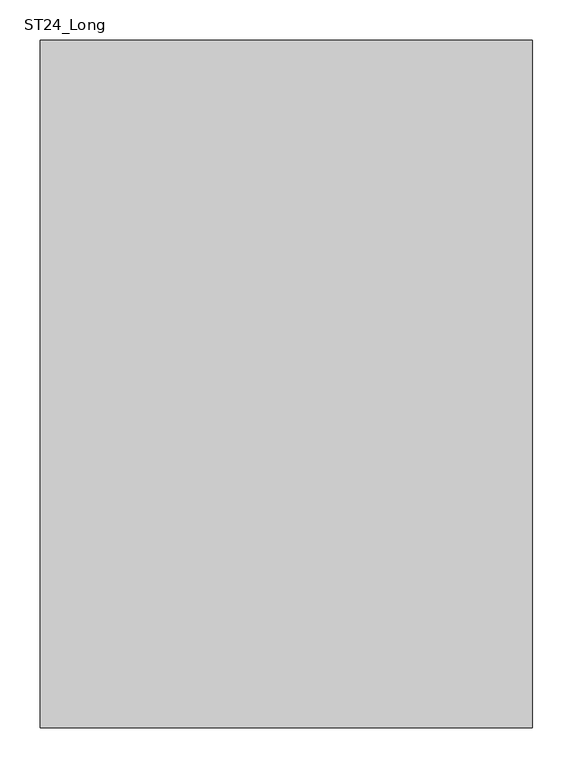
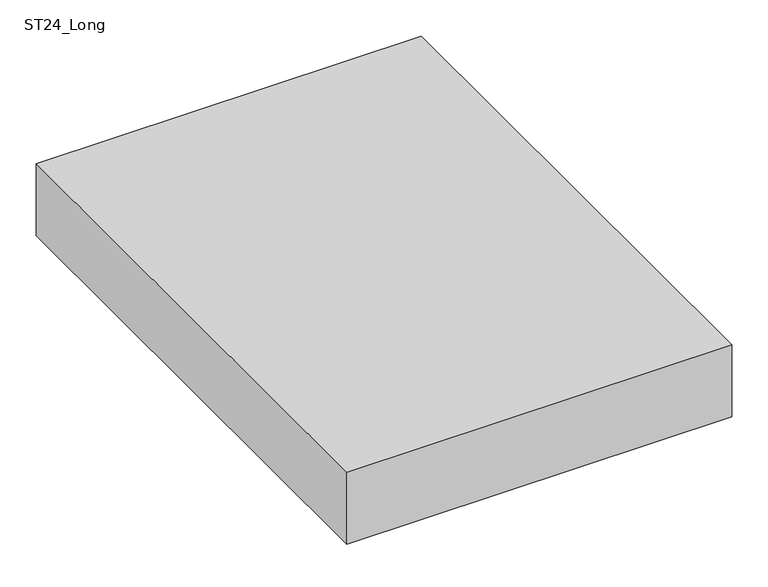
"""IFC4 building model written with IfcOpenShell, lengths in millimetres: furniture geometry, Memo_Candy_Table_Straight : ST24_Long."""

from ifc_helpers import new_model, si_unit, point, frame, frame_2d, origin, origin_with_axes, place, context, project, spatial, polyline, circle_curve, trimmed, segment, composite_curve, outline, extrude, source, transform, mapped, element, save


def st24_long_0afb67d4(model_context):
    return source(origin(), model_context, "Body", "SweptSolid", [
        extrude(outline(composite_curve([segment(trimmed(circle_curve(frame_2d((247.65, 323.85)), 14.2875), [point((233.3625, 323.85))], [point((261.9375, 323.85))], False, "CARTESIAN"), True, "CONTINUOUS"), segment(trimmed(circle_curve(frame_2d((247.65, 323.85)), 14.2875), [point((261.9375, 323.85))], [point((233.3625, 323.85))], False, "CARTESIAN"), True, "CONTINUOUS")], self_intersect=False)), origin_with_axes(), (0.0, 0.0, 1.0), 10.2362),
        extrude(outline(composite_curve([segment(trimmed(circle_curve(frame_2d((247.65, -425.45)), 14.2875), [point((233.3625, -425.45))], [point((261.9375, -425.45))], False, "CARTESIAN"), True, "CONTINUOUS"), segment(trimmed(circle_curve(frame_2d((247.65, -425.45)), 14.2875), [point((261.9375, -425.45))], [point((233.3625, -425.45))], False, "CARTESIAN"), True, "CONTINUOUS")], self_intersect=False)), origin_with_axes(), (0.0, 0.0, 1.0), 10.2362),
        extrude(outline(composite_curve([segment(trimmed(circle_curve(frame_2d((-247.65, 323.85)), 14.2875), [point((-261.9375, 323.85))], [point((-233.3625, 323.85))], False, "CARTESIAN"), True, "CONTINUOUS"), segment(trimmed(circle_curve(frame_2d((-247.65, 323.85)), 14.2875), [point((-233.3625, 323.85))], [point((-261.9375, 323.85))], False, "CARTESIAN"), True, "CONTINUOUS")], self_intersect=False)), origin_with_axes(), (0.0, 0.0, 1.0), 10.2362),
        extrude(outline(composite_curve([segment(trimmed(circle_curve(frame_2d((-247.65, -425.45)), 14.2875), [point((-261.9375, -425.45))], [point((-233.3625, -425.45))], False, "CARTESIAN"), True, "CONTINUOUS"), segment(trimmed(circle_curve(frame_2d((-247.65, -425.45)), 14.2875), [point((-233.3625, -425.45))], [point((-261.9375, -425.45))], False, "CARTESIAN"), True, "CONTINUOUS")], self_intersect=False)), origin_with_axes(), (0.0, 0.0, 1.0), 10.2362),
        extrude(outline(polyline([(304.8, -476.25), (-304.8, -476.25), (-304.8, 374.65), (304.8, 374.65), (304.8, -476.25)])), frame((0.0, 0.0, 10.2362), z_axis=(0.0, 0.0, 1.0), x_axis=(1.0, 0.0, 0.0)), (0.0, 0.0, 1.0), 120.65),
    ])


if __name__ == "__main__":
    model = new_model("IFC4")
    model_context = context("Model", 3, world=origin())
    ifc_project = project(units=[si_unit("LENGTHUNIT", "METRE", prefix="MILLI")], contexts=[model_context])
    site = spatial("IfcSite", under=ifc_project)
    building = spatial("IfcBuilding", under=site)
    placement = place(None, origin())
    st24_long_shape = st24_long_0afb67d4(model_context)
    element("IfcFurniture", 1, ObjectType="Memo_Candy_Table_Straight : ST24_Long", at=placement, inside=building, context=model_context, shape_type="MappedRepresentation", body=[
        mapped(st24_long_shape, transform((0.0, 0.0, 0.0), x_axis=(1.0, 0.0, 0.0), y_axis=(0.0, 1.0, 0.0), z_axis=(0.0, 0.0, 1.0))),
    ])
    save(model, "model.ifc")
